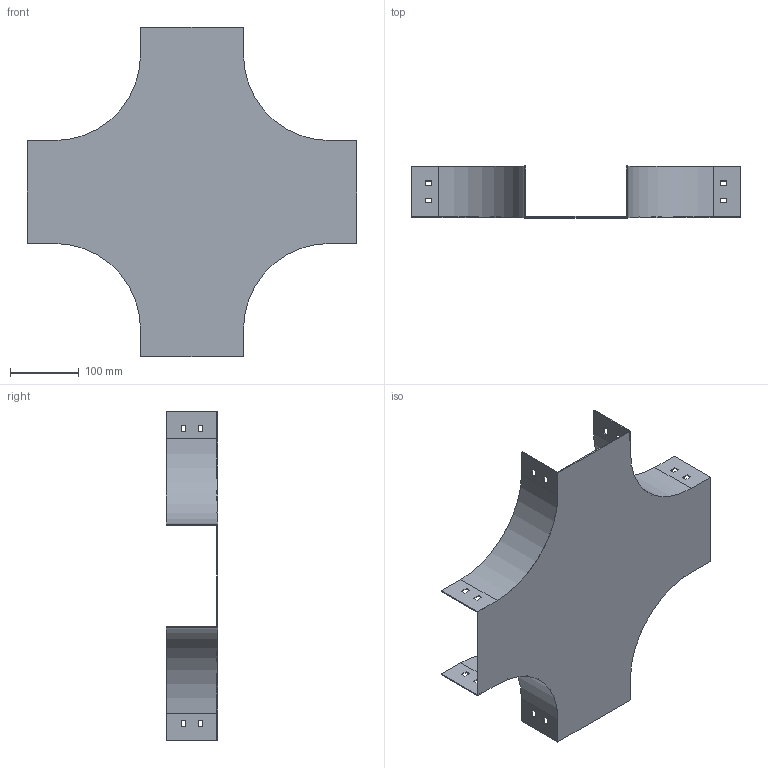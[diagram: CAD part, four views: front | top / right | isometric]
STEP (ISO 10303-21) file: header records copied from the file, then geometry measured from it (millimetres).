
FILE_DESCRIPTION (( 'STEP AP214' ), '1' );
FILE_NAME ('PC_157.step', '2025-07-16T09:21:59', ( '' ), ( '' ), 'SwSTEP 2.0', 'SolidWorks 2023', '' );
FILE_SCHEMA (( 'AUTOMOTIVE_DESIGN' ));
Length unit declared in the file: millimetre
Products named in the file (1): PC_157
Bounding box: 480 x 75 x 480 mm (x, y, z)
Volume: 323078.6 mm3; surface area: 435027.6 mm2
Topology: 1 solids, 1 shells, 98 faces, 288 edges, 192 vertices
Faces by surface type: plane 90, cylinder 8
Entity records: 3295 total; most frequent: CARTESIAN_POINT 579, ORIENTED_EDGE 576, DIRECTION 502, EDGE_CURVE 288, VECTOR 272, LINE 272, VERTEX_POINT 192, EDGE_LOOP 130
